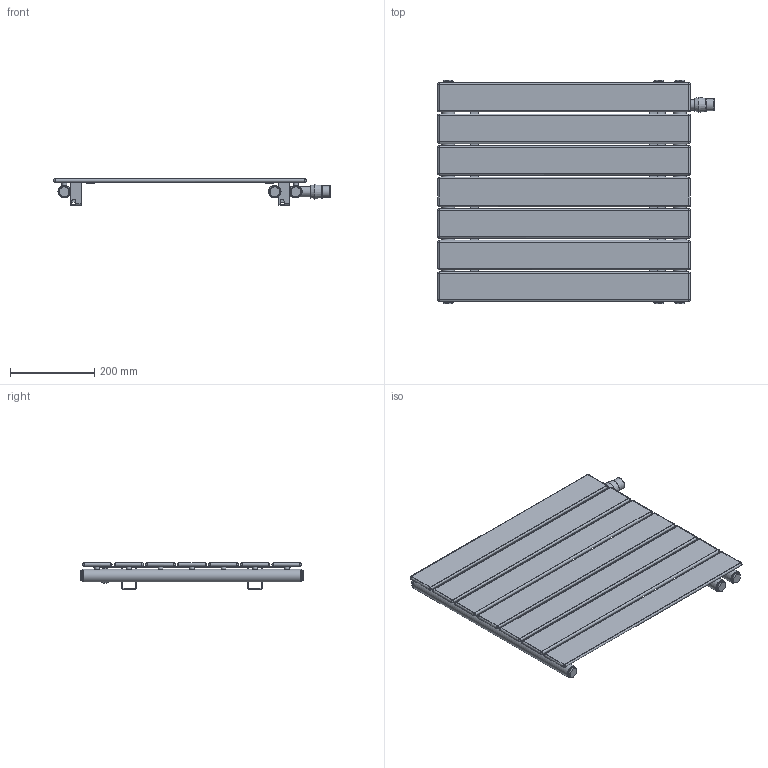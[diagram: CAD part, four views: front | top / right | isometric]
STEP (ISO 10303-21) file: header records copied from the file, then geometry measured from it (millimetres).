
FILE_DESCRIPTION(/* description */ (''),/* implementation_level */ '2;1');
FILE_NAME(/* name */ 'C:\Grzejniki\13DLUXRAD\pokojowe\NIAGARA\to\NIAGARA POZIOMA Z WKŁADKĄ TERMOSTATYCZNĄ 520x600.iam.stp',/* time_stamp */ '2016-06-28T17:33:55+02:00',/* author */ ('m.szydziak'),/* organization */ (''),/* preprocessor_version */ 'ST-DEVELOPER v16.5',/* originating_system */ 'Autodesk Inventor 2017',/* authorisation */ '');
FILE_SCHEMA (('AUTOMOTIVE_DESIGN { 1 0 10303 214 3 1 1 }'));
Length unit declared in the file: millimetre
Products named in the file (10): NIAGARA POZIOMA Z WKŁADKĄ TERMOST
ATYCZNĄ 520x600; NIAGARA 600x520; 70x8x1,2x604; michałek; ucho duze; ucho duze 2; poprzeczka 470; fi30x1,5x520; Głowica Termostatyczna; korek
Assembly tree (38 placements, depth 3):
  NIAGARA POZIOMA Z WKŁADKĄ TERMOST
ATYCZNĄ 520x600
    NIAGARA 600x520
      fi30x1,5x520  x2
      70x8x1,2x604  x7
      michałek  x14
      ucho duze  x2
      ucho duze 2  x2
      korek  x4
      poprzeczka 470  x2
    fi30x1,5x520
    Głowica Termostatyczna
    korek  x2
Bounding box: 656.85 x 532 x 62.5 mm (x, y, z)
Volume: 1116634.2 mm3; surface area: 1608412.4 mm2
Topology: 37 solids, 37 shells, 504 faces, 1123 edges, 693 vertices
Faces by surface type: plane 270, cylinder 172, sphere 56, torus 4, cone 2
Full cylindrical faces by diameter (mm): 8 x14, 9 x14, 10 x14, 11.5 x14, 18.631 x6, 24 x6, 25 x1, 27 x3, 28 x1, 30 x3
Entity records: 4081 total; most frequent: DIRECTION 722, CARTESIAN_POINT 697, ORIENTED_EDGE 548, AXIS2_PLACEMENT_3D 275, EDGE_CURVE 274, VERTEX_POINT 178, LINE 172, VECTOR 172
